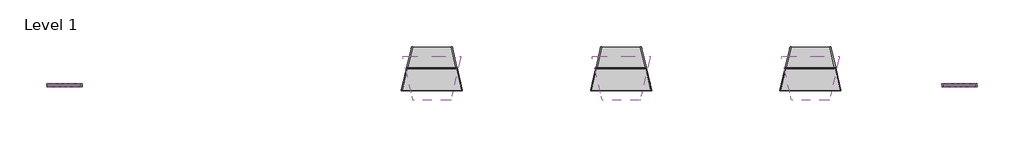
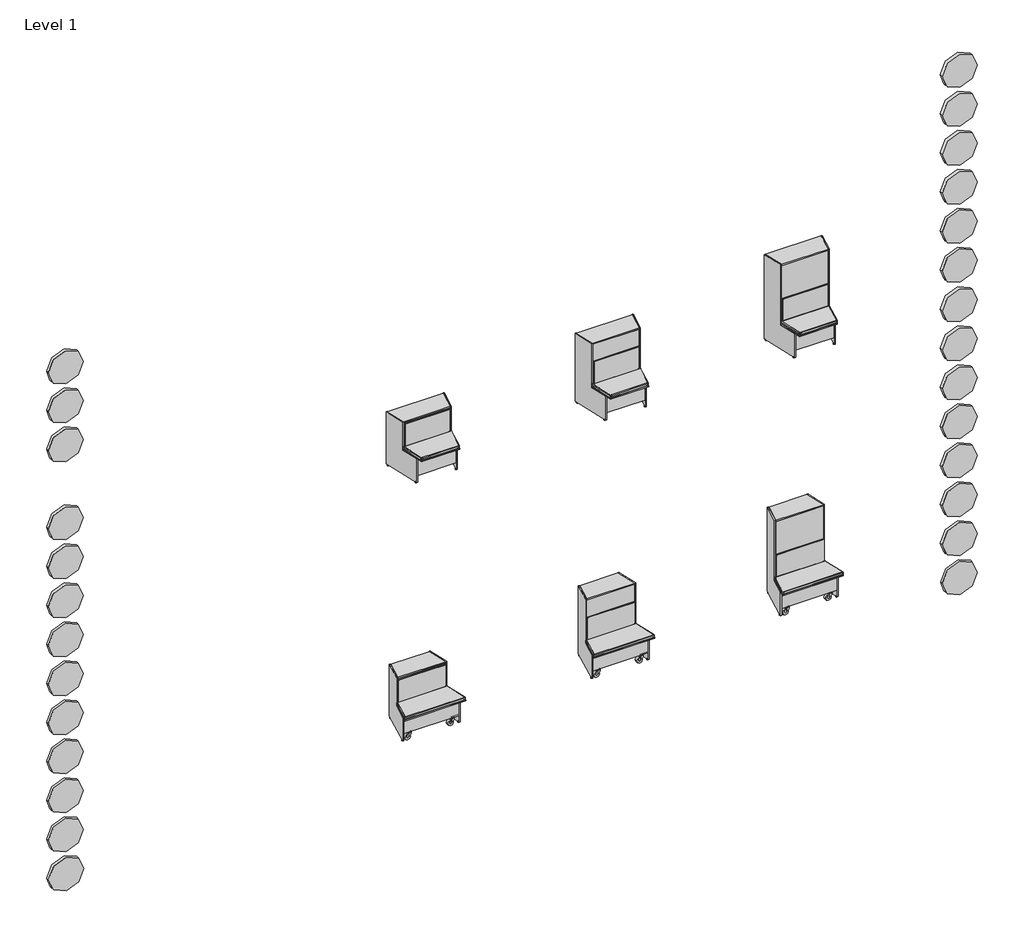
# One storey: 27 proxies, 6 furniture elements.
"""IFC4 building model written with IfcOpenShell, lengths in millimetres."""

from ifc_helpers import new_model, si_unit, origin, place, context, project, spatial, transform, mapped, element, save
from components import materialmodel_materialmodel_37012b21, bk_library_atlas_sofa_inner_1240_bk_library_atlas_sofa_inner_c92ac835, bk_library_atlas_sofa_inner_1240_bk_library_atlas_sofa_inner_55cf945c, bk_library_atlas_sofa_inner_1530_bk_library_atlas_sofa_inner_c74d5a1d, bk_library_atlas_sofa_inner_1530_bk_library_atlas_sofa_inner_f51117fb, bk_library_atlas_sofa_inner_950_bk_library_atlas_sofa_inner_ff10e637, bk_library_atlas_sofa_outer_1240_bk_library_atlas_sofa_outer_185b53af, bk_library_atlas_sofa_outer_1240_bk_library_atlas_sofa_outer_c0599cd5, bk_library_atlas_sofa_outer_1530_bk_library_atlas_sofa_outer_527756fa, bk_library_atlas_sofa_outer_950_bk_library_atlas_sofa_outer_a1be0d46, bk_library_atlas_sofa_outer_950_bk_library_atlas_sofa_outer_0c4ed581

model = new_model("IFC4")

# Units and contexts
model_context = context("Model", 3, world=origin())
ifc_project = project(units=[si_unit("LENGTHUNIT", "METRE", prefix="MILLI")], contexts=[model_context])

# Site, building, storey
site = spatial("IfcSite", under=ifc_project)
building = spatial("IfcBuilding", under=site)
storey = spatial("IfcBuildingStorey", under=building, Name="Level 1", Elevation=0.0)

# Proxies
placement = place(None, origin())
materialmodel_materialmodel_shape = materialmodel_materialmodel_37012b21(model_context)
element("IfcBuildingElementProxy", 1, Name="MaterialModel : MaterialModel", ObjectType="MaterialModel : MaterialModel", at=placement, inside=storey, context=model_context, shape_type="MappedRepresentation", body=[
    mapped(materialmodel_materialmodel_shape, transform((-13554.9098726, 6390.3767321, 4377.8473596), x_axis=(1.0, 0.0, 0.0), y_axis=(0.0, 1.0, 0.0), z_axis=(0.0, 0.0, 1.0))),
])
element("IfcBuildingElementProxy", 2, Name="MaterialModel : MaterialModel", ObjectType="MaterialModel : MaterialModel", at=placement, inside=storey, context=model_context, shape_type="MappedRepresentation", body=[
    mapped(materialmodel_materialmodel_shape, transform((-13554.9098726, 6390.3767321, 5080.1626126), x_axis=(1.0, 0.0, 0.0), y_axis=(0.0, 1.0, 0.0), z_axis=(0.0, 0.0, 1.0))),
])
element("IfcBuildingElementProxy", 3, Name="MaterialModel : MaterialModel", ObjectType="MaterialModel : MaterialModel", at=placement, inside=storey, context=model_context, shape_type="MappedRepresentation", body=[
    mapped(materialmodel_materialmodel_shape, transform((-13554.9098726, 6390.3767321, 2270.9016003), x_axis=(1.0, 0.0, 0.0), y_axis=(0.0, 1.0, 0.0), z_axis=(0.0, 0.0, 1.0))),
])
element("IfcBuildingElementProxy", 4, Name="MaterialModel : MaterialModel", ObjectType="MaterialModel : MaterialModel", at=placement, inside=storey, context=model_context, shape_type="MappedRepresentation", body=[
    mapped(materialmodel_materialmodel_shape, transform((-13554.9098726, 6390.3767321, 3675.5321065), x_axis=(1.0, 0.0, 0.0), y_axis=(0.0, 1.0, 0.0), z_axis=(0.0, 0.0, 1.0))),
])
element("IfcBuildingElementProxy", 5, Name="MaterialModel : MaterialModel", ObjectType="MaterialModel : MaterialModel", at=placement, inside=storey, context=model_context, shape_type="MappedRepresentation", body=[
    mapped(materialmodel_materialmodel_shape, transform((-13554.9098726, 6390.3767321, 866.2710941), x_axis=(1.0, 0.0, 0.0), y_axis=(0.0, 1.0, 0.0), z_axis=(0.0, 0.0, 1.0))),
])
element("IfcBuildingElementProxy", 6, Name="MaterialModel : MaterialModel", ObjectType="MaterialModel : MaterialModel", at=placement, inside=storey, context=model_context, shape_type="MappedRepresentation", body=[
    mapped(materialmodel_materialmodel_shape, transform((-13554.9098726, 6390.3767321, 1568.5863472), x_axis=(1.0, 0.0, 0.0), y_axis=(0.0, 1.0, 0.0), z_axis=(0.0, 0.0, 1.0))),
])
element("IfcBuildingElementProxy", 7, Name="MaterialModel : MaterialModel", ObjectType="MaterialModel : MaterialModel", at=placement, inside=storey, context=model_context, shape_type="MappedRepresentation", body=[
    mapped(materialmodel_materialmodel_shape, transform((-13554.9098726, 6390.3767321, -538.359412), x_axis=(1.0, 0.0, 0.0), y_axis=(0.0, 1.0, 0.0), z_axis=(0.0, 0.0, 1.0))),
])
element("IfcBuildingElementProxy", 8, Name="MaterialModel : MaterialModel", ObjectType="MaterialModel : MaterialModel", at=placement, inside=storey, context=model_context, shape_type="MappedRepresentation", body=[
    mapped(materialmodel_materialmodel_shape, transform((-13554.9098726, 6390.3767321, 163.9558411), x_axis=(1.0, 0.0, 0.0), y_axis=(0.0, 1.0, 0.0), z_axis=(0.0, 0.0, 1.0))),
])
element("IfcBuildingElementProxy", 9, Name="MaterialModel : MaterialModel", ObjectType="MaterialModel : MaterialModel", at=placement, inside=storey, context=model_context, shape_type="MappedRepresentation", body=[
    mapped(materialmodel_materialmodel_shape, transform((-13554.9098726, 6390.3767321, -1942.9899182), x_axis=(1.0, 0.0, 0.0), y_axis=(0.0, 1.0, 0.0), z_axis=(0.0, 0.0, 1.0))),
])
element("IfcBuildingElementProxy", 10, Name="MaterialModel : MaterialModel", ObjectType="MaterialModel : MaterialModel", at=placement, inside=storey, context=model_context, shape_type="MappedRepresentation", body=[
    mapped(materialmodel_materialmodel_shape, transform((-13554.9098726, 6390.3767321, -1240.6746651), x_axis=(1.0, 0.0, 0.0), y_axis=(0.0, 1.0, 0.0), z_axis=(0.0, 0.0, 1.0))),
])
element("IfcBuildingElementProxy", 11, Name="MaterialModel : MaterialModel", ObjectType="MaterialModel : MaterialModel", at=placement, inside=storey, context=model_context, shape_type="MappedRepresentation", body=[
    mapped(materialmodel_materialmodel_shape, transform((-13554.9098726, 6390.3767321, -3347.6204243), x_axis=(1.0, 0.0, 0.0), y_axis=(0.0, 1.0, 0.0), z_axis=(0.0, 0.0, 1.0))),
])
element("IfcBuildingElementProxy", 12, Name="MaterialModel : MaterialModel", ObjectType="MaterialModel : MaterialModel", at=placement, inside=storey, context=model_context, shape_type="MappedRepresentation", body=[
    mapped(materialmodel_materialmodel_shape, transform((-13554.9098726, 6390.3767321, -2645.3051713), x_axis=(1.0, 0.0, 0.0), y_axis=(0.0, 1.0, 0.0), z_axis=(0.0, 0.0, 1.0))),
])
element("IfcBuildingElementProxy", 13, Name="MaterialModel : MaterialModel", ObjectType="MaterialModel : MaterialModel", at=placement, inside=storey, context=model_context, shape_type="MappedRepresentation", body=[
    mapped(materialmodel_materialmodel_shape, transform((-13550.7644209, 6390.3767321, -4049.9356774), x_axis=(1.0, 0.0, 0.0), y_axis=(0.0, 1.0, 0.0), z_axis=(0.0, 0.0, 1.0))),
])
element("IfcBuildingElementProxy", 14, Name="MaterialModel : MaterialModel", ObjectType="MaterialModel : MaterialModel", at=placement, inside=storey, context=model_context, shape_type="MappedRepresentation", body=[
    mapped(materialmodel_materialmodel_shape, transform((1675.5131878, 6390.3767321, 4388.3837013), x_axis=(1.0, 0.0, 0.0), y_axis=(0.0, 1.0, 0.0), z_axis=(0.0, 0.0, 1.0))),
])
element("IfcBuildingElementProxy", 15, Name="MaterialModel : MaterialModel", ObjectType="MaterialModel : MaterialModel", at=placement, inside=storey, context=model_context, shape_type="MappedRepresentation", body=[
    mapped(materialmodel_materialmodel_shape, transform((1675.5131878, 6390.3767321, 5090.6989544), x_axis=(1.0, 0.0, 0.0), y_axis=(0.0, 1.0, 0.0), z_axis=(0.0, 0.0, 1.0))),
])
element("IfcBuildingElementProxy", 16, Name="MaterialModel : MaterialModel", ObjectType="MaterialModel : MaterialModel", at=placement, inside=storey, context=model_context, shape_type="MappedRepresentation", body=[
    mapped(materialmodel_materialmodel_shape, transform((1675.5131878, 6390.3767321, 2983.7531952), x_axis=(1.0, 0.0, 0.0), y_axis=(0.0, 1.0, 0.0), z_axis=(0.0, 0.0, 1.0))),
])
element("IfcBuildingElementProxy", 17, Name="MaterialModel : MaterialModel", ObjectType="MaterialModel : MaterialModel", at=placement, inside=storey, context=model_context, shape_type="MappedRepresentation", body=[
    mapped(materialmodel_materialmodel_shape, transform((1675.5131878, 6390.3767321, 3686.0684482), x_axis=(1.0, 0.0, 0.0), y_axis=(0.0, 1.0, 0.0), z_axis=(0.0, 0.0, 1.0))),
])
element("IfcBuildingElementProxy", 18, Name="MaterialModel : MaterialModel", ObjectType="MaterialModel : MaterialModel", at=placement, inside=storey, context=model_context, shape_type="MappedRepresentation", body=[
    mapped(materialmodel_materialmodel_shape, transform((1675.5131878, 6390.3767321, 1579.122689), x_axis=(1.0, 0.0, 0.0), y_axis=(0.0, 1.0, 0.0), z_axis=(0.0, 0.0, 1.0))),
])
element("IfcBuildingElementProxy", 19, Name="MaterialModel : MaterialModel", ObjectType="MaterialModel : MaterialModel", at=placement, inside=storey, context=model_context, shape_type="MappedRepresentation", body=[
    mapped(materialmodel_materialmodel_shape, transform((1675.5131878, 6390.3767321, 2281.4379421), x_axis=(1.0, 0.0, 0.0), y_axis=(0.0, 1.0, 0.0), z_axis=(0.0, 0.0, 1.0))),
])
element("IfcBuildingElementProxy", 20, Name="MaterialModel : MaterialModel", ObjectType="MaterialModel : MaterialModel", at=placement, inside=storey, context=model_context, shape_type="MappedRepresentation", body=[
    mapped(materialmodel_materialmodel_shape, transform((1675.5131878, 6390.3767321, 866.2710941), x_axis=(1.0, 0.0, 0.0), y_axis=(0.0, 1.0, 0.0), z_axis=(0.0, 0.0, 1.0))),
])
element("IfcBuildingElementProxy", 21, Name="MaterialModel : MaterialModel", ObjectType="MaterialModel : MaterialModel", at=placement, inside=storey, context=model_context, shape_type="MappedRepresentation", body=[
    mapped(materialmodel_materialmodel_shape, transform((1675.5131878, 6390.3767321, -538.359412), x_axis=(1.0, 0.0, 0.0), y_axis=(0.0, 1.0, 0.0), z_axis=(0.0, 0.0, 1.0))),
])
element("IfcBuildingElementProxy", 22, Name="MaterialModel : MaterialModel", ObjectType="MaterialModel : MaterialModel", at=placement, inside=storey, context=model_context, shape_type="MappedRepresentation", body=[
    mapped(materialmodel_materialmodel_shape, transform((1675.5131878, 6390.3767321, 163.9558411), x_axis=(1.0, 0.0, 0.0), y_axis=(0.0, 1.0, 0.0), z_axis=(0.0, 0.0, 1.0))),
])
element("IfcBuildingElementProxy", 23, Name="MaterialModel : MaterialModel", ObjectType="MaterialModel : MaterialModel", at=placement, inside=storey, context=model_context, shape_type="MappedRepresentation", body=[
    mapped(materialmodel_materialmodel_shape, transform((1675.5131878, 6390.3767321, -1942.9899182), x_axis=(1.0, 0.0, 0.0), y_axis=(0.0, 1.0, 0.0), z_axis=(0.0, 0.0, 1.0))),
])
element("IfcBuildingElementProxy", 24, Name="MaterialModel : MaterialModel", ObjectType="MaterialModel : MaterialModel", at=placement, inside=storey, context=model_context, shape_type="MappedRepresentation", body=[
    mapped(materialmodel_materialmodel_shape, transform((1675.5131878, 6390.3767321, -1240.6746651), x_axis=(1.0, 0.0, 0.0), y_axis=(0.0, 1.0, 0.0), z_axis=(0.0, 0.0, 1.0))),
])
element("IfcBuildingElementProxy", 25, Name="MaterialModel : MaterialModel", ObjectType="MaterialModel : MaterialModel", at=placement, inside=storey, context=model_context, shape_type="MappedRepresentation", body=[
    mapped(materialmodel_materialmodel_shape, transform((1675.5131878, 6390.3767321, -3347.6204243), x_axis=(1.0, 0.0, 0.0), y_axis=(0.0, 1.0, 0.0), z_axis=(0.0, 0.0, 1.0))),
])
element("IfcBuildingElementProxy", 26, Name="MaterialModel : MaterialModel", ObjectType="MaterialModel : MaterialModel", at=placement, inside=storey, context=model_context, shape_type="MappedRepresentation", body=[
    mapped(materialmodel_materialmodel_shape, transform((1675.5131878, 6390.3767321, -2645.3051713), x_axis=(1.0, 0.0, 0.0), y_axis=(0.0, 1.0, 0.0), z_axis=(0.0, 0.0, 1.0))),
])
element("IfcBuildingElementProxy", 27, Name="MaterialModel : MaterialModel", ObjectType="MaterialModel : MaterialModel", at=placement, inside=storey, context=model_context, shape_type="MappedRepresentation", body=[
    mapped(materialmodel_materialmodel_shape, transform((1679.6586394, 6390.3767321, -4049.9356774), x_axis=(1.0, 0.0, 0.0), y_axis=(0.0, 1.0, 0.0), z_axis=(0.0, 0.0, 1.0))),
])

# Furniture
bk_library_atlas_sofa_inner_1240_bk_library_atlas_sofa_inner_shape = bk_library_atlas_sofa_inner_1240_bk_library_atlas_sofa_inner_c92ac835(model_context)
bk_library_atlas_sofa_inner_1240_bk_library_atlas_sofa_inner_2_shape = bk_library_atlas_sofa_inner_1240_bk_library_atlas_sofa_inner_55cf945c(model_context)
element("IfcFurniture", 28, ObjectType="BK Library - Atlas Sofa Inner - 1240 : BK Library - Atlas Sofa Inner - 1240", at=placement, inside=storey, context=model_context, shape_type="MappedRepresentation", body=[
    mapped(bk_library_atlas_sofa_inner_1240_bk_library_atlas_sofa_inner_shape, transform((-4081.1521284, 6538.3767227, 1295.9968387), x_axis=(1.0, 0.0, 0.0), y_axis=(0.0, 1.0, 0.0), z_axis=(0.0, 0.0, 1.0))),
    mapped(bk_library_atlas_sofa_inner_1240_bk_library_atlas_sofa_inner_2_shape, transform((-4081.1521284, 6538.3767227, 1295.9968387), x_axis=(1.0, 0.0, 0.0), y_axis=(0.0, 1.0, 0.0), z_axis=(0.0, 0.0, 1.0))),
])
bk_library_atlas_sofa_inner_1530_bk_library_atlas_sofa_inner_shape = bk_library_atlas_sofa_inner_1530_bk_library_atlas_sofa_inner_c74d5a1d(model_context)
bk_library_atlas_sofa_inner_1530_bk_library_atlas_sofa_inner_2_shape = bk_library_atlas_sofa_inner_1530_bk_library_atlas_sofa_inner_f51117fb(model_context)
element("IfcFurniture", 29, ObjectType="BK Library - Atlas Sofa Inner - 1530 : BK Library - Atlas Sofa Inner - 1530", at=placement, inside=storey, context=model_context, shape_type="MappedRepresentation", body=[
    mapped(bk_library_atlas_sofa_inner_1530_bk_library_atlas_sofa_inner_shape, transform((-861.1521284, 6539.3767164, 1295.9968387), x_axis=(1.0, 0.0, 0.0), y_axis=(0.0, 1.0, 0.0), z_axis=(0.0, 0.0, 1.0))),
    mapped(bk_library_atlas_sofa_inner_1530_bk_library_atlas_sofa_inner_2_shape, transform((-861.1521284, 6539.3767164, 1295.9968387), x_axis=(1.0, 0.0, 0.0), y_axis=(0.0, 1.0, 0.0), z_axis=(0.0, 0.0, 1.0))),
])
bk_library_atlas_sofa_inner_950_bk_library_atlas_sofa_inner_shape = bk_library_atlas_sofa_inner_950_bk_library_atlas_sofa_inner_ff10e637(model_context)
element("IfcFurniture", 30, ObjectType="BK Library - Atlas Sofa Inner - 950 : BK Library - Atlas Sofa Inner - 950", at=placement, inside=storey, context=model_context, shape_type="MappedRepresentation", body=[
    mapped(bk_library_atlas_sofa_inner_950_bk_library_atlas_sofa_inner_shape, transform((-7301.1521284, 6539.3767164, 1295.9968387), x_axis=(1.0, 0.0, 0.0), y_axis=(0.0, 1.0, 0.0), z_axis=(0.0, 0.0, 1.0))),
])
bk_library_atlas_sofa_outer_1240_bk_library_atlas_sofa_outer_shape = bk_library_atlas_sofa_outer_1240_bk_library_atlas_sofa_outer_185b53af(model_context)
bk_library_atlas_sofa_outer_1240_bk_library_atlas_sofa_outer_2_shape = bk_library_atlas_sofa_outer_1240_bk_library_atlas_sofa_outer_c0599cd5(model_context)
element("IfcFurniture", 31, ObjectType="BK Library - Atlas Sofa Outer - 1240 : BK Library - Atlas Sofa Outer - 1240", at=placement, inside=storey, context=model_context, shape_type="MappedRepresentation", body=[
    mapped(bk_library_atlas_sofa_outer_1240_bk_library_atlas_sofa_outer_shape, transform((-4081.1521284, 6696.7220044, -3404.0031613), x_axis=(-1.0, 0.0, 0.0), y_axis=(0.0, -1.0, 0.0), z_axis=(0.0, 0.0, 1.0))),
    mapped(bk_library_atlas_sofa_outer_1240_bk_library_atlas_sofa_outer_2_shape, transform((-4081.1521284, 6696.7220044, -3404.0031613), x_axis=(-1.0, 0.0, 0.0), y_axis=(0.0, -1.0, 0.0), z_axis=(0.0, 0.0, 1.0))),
])
bk_library_atlas_sofa_outer_1530_bk_library_atlas_sofa_outer_shape = bk_library_atlas_sofa_outer_1530_bk_library_atlas_sofa_outer_527756fa(model_context)
element("IfcFurniture", 32, ObjectType="BK Library - Atlas Sofa Outer - 1530 : BK Library - Atlas Sofa Outer - 1530", at=placement, inside=storey, context=model_context, shape_type="MappedRepresentation", body=[
    mapped(bk_library_atlas_sofa_outer_1530_bk_library_atlas_sofa_outer_shape, transform((-861.1521284, 6697.7219982, -3404.0031613), x_axis=(-1.0, 0.0, 0.0), y_axis=(0.0, -1.0, 0.0), z_axis=(0.0, 0.0, 1.0))),
    mapped(bk_library_atlas_sofa_outer_1240_bk_library_atlas_sofa_outer_2_shape, transform((-861.1521284, 6697.7219982, -3404.0031613), x_axis=(-1.0, 0.0, 0.0), y_axis=(0.0, -1.0, 0.0), z_axis=(0.0, 0.0, 1.0))),
])
bk_library_atlas_sofa_outer_950_bk_library_atlas_sofa_outer_shape = bk_library_atlas_sofa_outer_950_bk_library_atlas_sofa_outer_a1be0d46(model_context)
bk_library_atlas_sofa_outer_950_bk_library_atlas_sofa_outer_2_shape = bk_library_atlas_sofa_outer_950_bk_library_atlas_sofa_outer_0c4ed581(model_context)
element("IfcFurniture", 33, ObjectType="BK Library - Atlas Sofa Outer - 950 : BK Library - Atlas Sofa Outer - 950", at=placement, inside=storey, context=model_context, shape_type="MappedRepresentation", body=[
    mapped(bk_library_atlas_sofa_outer_950_bk_library_atlas_sofa_outer_shape, transform((-7301.1521284, 6697.7219982, -3404.0031613), x_axis=(-1.0, 0.0, 0.0), y_axis=(0.0, -1.0, 0.0), z_axis=(0.0, 0.0, 1.0))),
    mapped(bk_library_atlas_sofa_outer_950_bk_library_atlas_sofa_outer_2_shape, transform((-7301.1521284, 6697.7219982, -3404.0031613), x_axis=(-1.0, 0.0, 0.0), y_axis=(0.0, -1.0, 0.0), z_axis=(0.0, 0.0, 1.0))),
])

save(model, "model.ifc")
